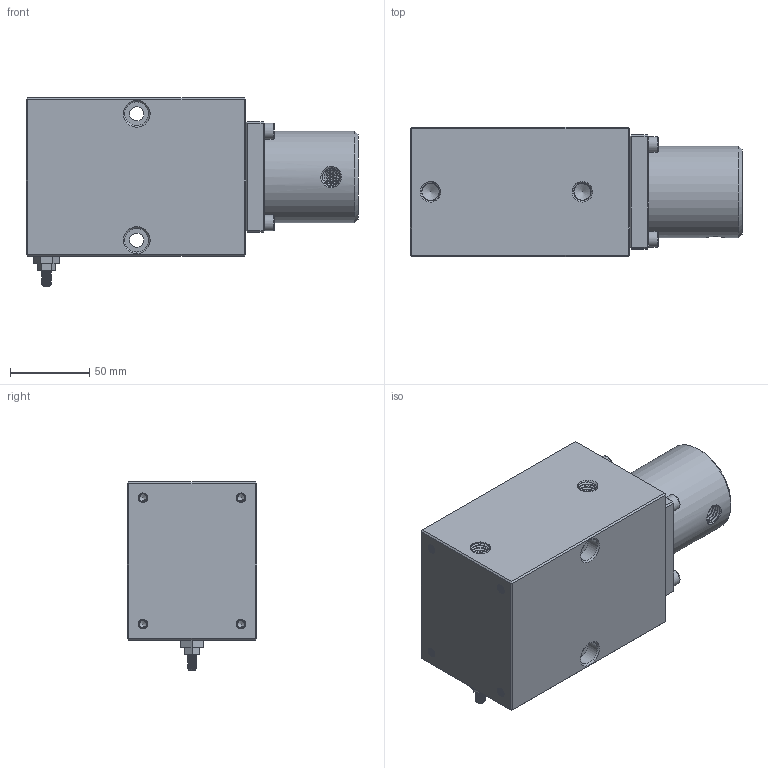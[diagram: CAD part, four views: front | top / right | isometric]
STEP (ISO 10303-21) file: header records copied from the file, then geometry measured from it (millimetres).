
FILE_DESCRIPTION(/* description */ (''),/* implementation_level */ '2;1');
FILE_NAME(/* name */ 'HB-8-5-3.8_x_t.stp',/* time_stamp */ '2015-06-02T10:25:33+08:00',/* author */ (''),/* organization */ (''),/* preprocessor_version */ 'ST-DEVELOPER v14',/* originating_system */ 'SIEMENS PLM Software NX 8.0',/* authorisation */ '');
FILE_SCHEMA (('AUTOMOTIVE_DESIGN { 1 0 10303 214 3 1 1 1 }'));
Products named in the file (1): HB-8-5-3.8_x_t
Bounding box: 210 x 82 x 119 mm (x, y, z)
Volume: 1334238.7 mm3; surface area: 108897.7 mm2
Topology: 5 solids, 5 shells, 230 faces, 570 edges, 357 vertices
Faces by surface type: plane 130, cylinder 43, bspline 34, cone 19, torus 4
Full cylindrical faces by diameter (mm): 9 x2, 10 x4, 11 x9, 15 x2, 58 x1
Entity records: 36420 total; most frequent: CARTESIAN_POINT 31827, ORIENTED_EDGE 976, DIRECTION 763, EDGE_CURVE 488, VERTEX_POINT 321, LINE 263, VECTOR 263, EDGE_LOOP 262
